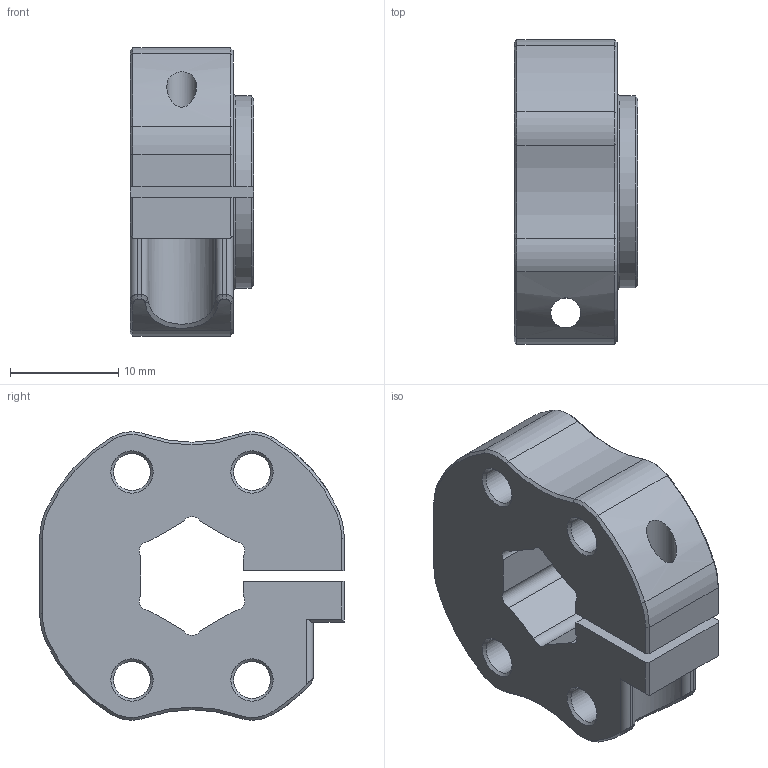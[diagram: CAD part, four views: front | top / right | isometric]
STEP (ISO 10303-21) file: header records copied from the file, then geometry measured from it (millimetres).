
FILE_DESCRIPTION(/* description */ ('Part 1'),/* implementation_level */ '2;1');
FILE_NAME(/* name */ 'NectorHub_three eighths hex.step',/* time_stamp */ '2026-08-01T11:30:39-04:00',/* author */ (''),/* organization */ (''),/* preprocessor_version */ 'ST-DEVELOPER v20.1',/* originating_system */ 'Autodesk Translation Framework v15.8.0.0',/* authorisation */ '');
FILE_SCHEMA (('AUTOMOTIVE_DESIGN { 1 0 10303 214 3 1 1 }'));
Length unit declared in the file: inch
Products named in the file (1): 2026-08-01-11-30-38-938
Bounding box: 11.43 x 28.19 x 26.7 mm (x, y, z)
Volume: 4942.3 mm3; surface area: 3042.3 mm2
Topology: 1 solids, 1 shells, 104 faces, 261 edges, 159 vertices
Faces by surface type: cone 36, cylinder 31, plane 28, bspline 9
Full cylindrical faces by diameter (mm): 2.769 x1, 3.416 x4, 3.658 x1
Entity records: 3489 total; most frequent: CARTESIAN_POINT 942, DIRECTION 525, ORIENTED_EDGE 522, EDGE_CURVE 261, AXIS2_PLACEMENT_3D 190, VERTEX_POINT 159, LINE 145, VECTOR 145
